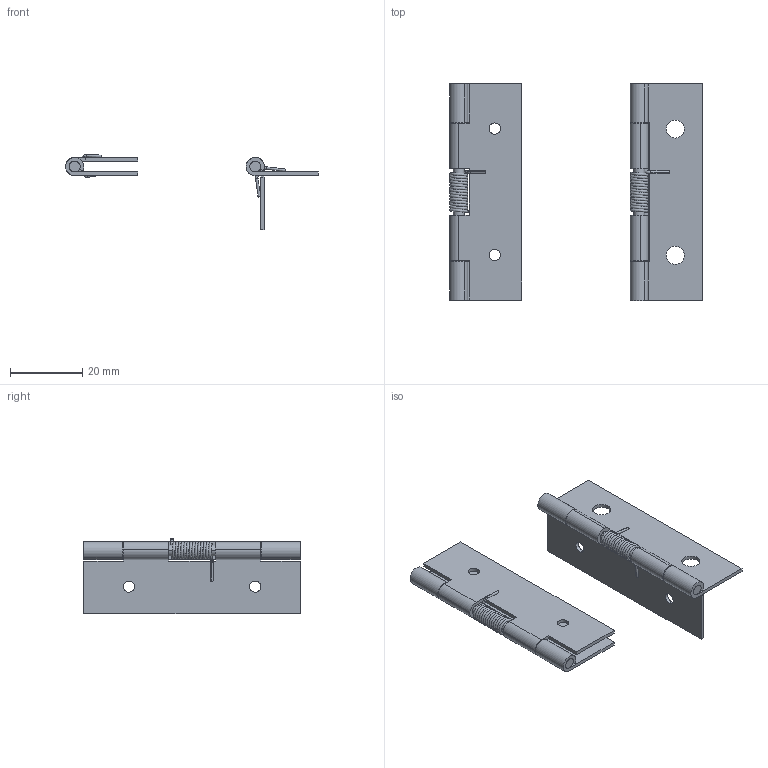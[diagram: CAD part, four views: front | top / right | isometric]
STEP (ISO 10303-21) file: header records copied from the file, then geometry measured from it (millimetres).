
FILE_DESCRIPTION((''),'2;1');
FILE_NAME('6065.stp','2011-04-15T08:58:57',(''),(''),'Mechanical Desktop 2006','Mechanical Desktop 2006',', , ');
FILE_SCHEMA(('CONFIG_CONTROL_DESIGN'));
Length unit declared in the file: millimetre
Products named in the file (9): 6065; TEIL1; TEIL2; TEIL3; DREHFEDERN - 0.700000 X 5.000000 X 14.000000; ~TEIL1; ~TEIL2; ~TEIL3; ~DREHFEDERN - 0.700000 X 5.000000 X 14.000000
Assembly tree (8 placements, depth 2):
  6065
    TEIL1
    TEIL2
    TEIL3
    DREHFEDERN - 0.700000 X 5.000000 X 14.000000
    ~TEIL1
    ~TEIL2
    ~TEIL3
    ~DREHFEDERN - 0.700000 X 5.000000 X 14.000000
Bounding box: 70 x 60.12 x 20.89 mm (x, y, z)
Volume: 5640.5 mm3; surface area: 12241.6 mm2
Topology: 8 solids, 8 shells, 145 faces, 379 edges, 256 vertices
Faces by surface type: cylinder 80, plane 56, bspline 7, torus 2
Entity records: 13364 total; most frequent: CARTESIAN_POINT 9438, DIRECTION 834, ORIENTED_EDGE 746, EDGE_CURVE 373, AXIS2_PLACEMENT_3D 315, VERTEX_POINT 244, VECTOR 204, LINE 204
